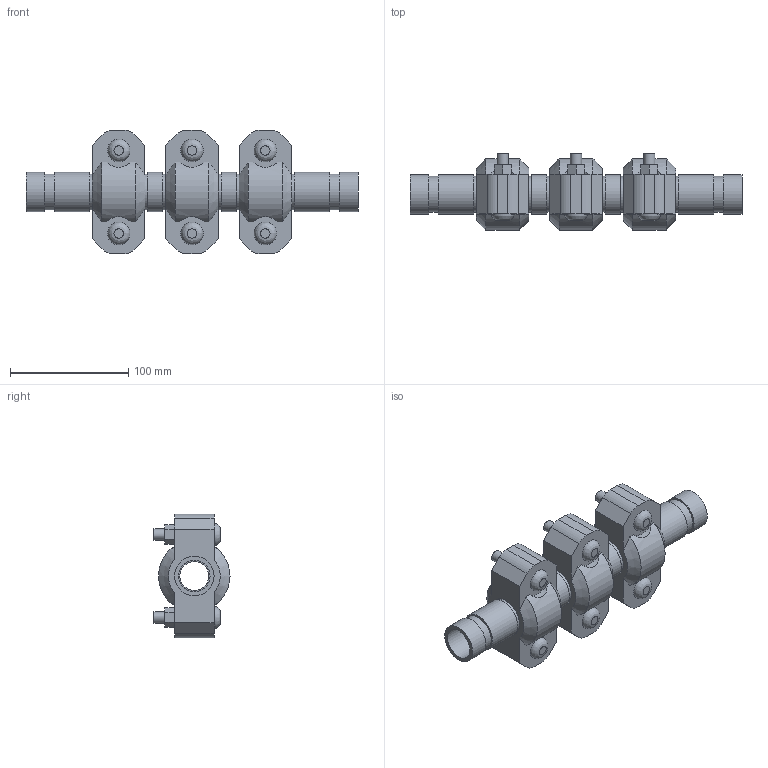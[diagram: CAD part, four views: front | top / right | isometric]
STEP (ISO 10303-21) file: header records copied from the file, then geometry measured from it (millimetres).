
FILE_DESCRIPTION(/* description */ ('VIC EXPANSION JOINT 3 COUPLINGS EXPANDED STYLE 155 (OGS)','CAx-IF Rec.Pracs.---Representation and Presentation of Product Manufacturing Information (PMI)---4.0---2014-10-13'),/* implementation_level */ '2;1');
FILE_NAME(/* name */ 'C:\Users\kkamble\AppData\Roaming\Autodesk\ApplicationPlugins\Victaulic.Temp\A258\Victaulic_IPS_Expansion Joint_Expanded_3 Couplings_Style 155 (OGS)_1 (25).stp',/* time_stamp */ '2021-06-26T23:57:56+02:00',/* author */ ('kkamble'),/* organization */ ('Victaulic'),/* preprocessor_version */ 'ST-DEVELOPER v17.2',/* originating_system */ 'Autodesk Inventor 2019',/* authorisation */ '');
FILE_SCHEMA (('AP242_MANAGED_MODEL_BASED_3D_ENGINEERING_MIM_LF { 1 0 10303 442 1 1 4 }'));
Length unit declared in the file: inch
Products named in the file (4): 155-01.0; Nipple-01.0; Nipple-01.0_1; 077-01.0
Assembly tree (7 placements, depth 2):
  155-01.0
    Nipple-01.0  x2
    Nipple-01.0_1  x2
    077-01.0  x3
Bounding box: 280.67 x 64.33 x 104.65 mm (x, y, z)
Volume: 515422.1 mm3; surface area: 144688.4 mm2
Topology: 7 solids, 13 shells, 231 faces, 555 edges, 390 vertices
Faces by surface type: plane 132, cylinder 81, cone 12, bspline 6
Full cylindrical faces by diameter (mm): 9.525 x12, 11.43 x6, 24.511 x3, 26.645 x4, 30.226 x8, 33.401 x18
Entity records: 2953 total; most frequent: CARTESIAN_POINT 567, DIRECTION 477, ORIENTED_EDGE 410, EDGE_CURVE 205, AXIS2_PLACEMENT_3D 190, VERTEX_POINT 146, EDGE_LOOP 111, LINE 97
